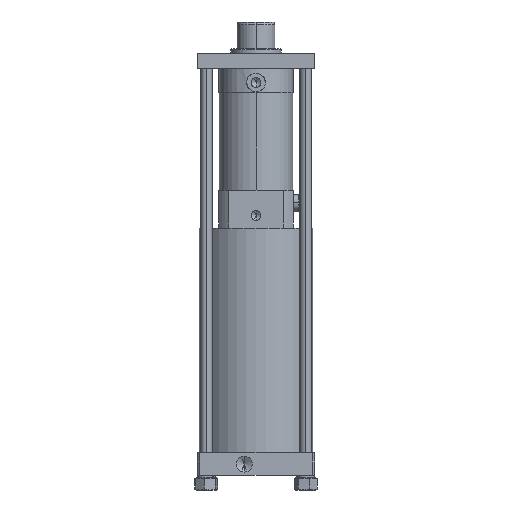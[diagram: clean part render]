
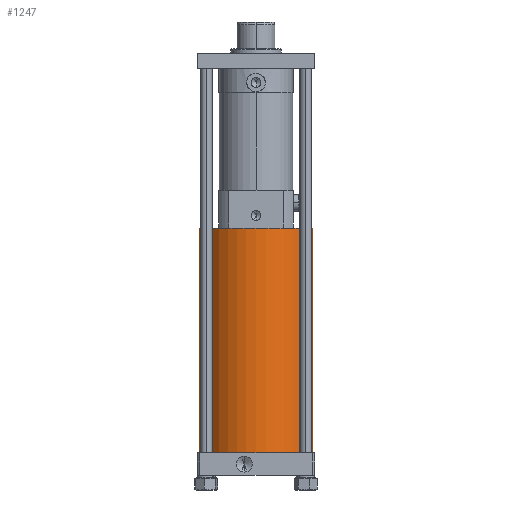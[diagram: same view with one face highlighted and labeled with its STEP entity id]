
A CAD part, left-side view. The second image highlights one B-rep face of the part: STEP entity #1247.
In plain terms, the highlighted cylindrical face has radius 67.5 mm (diameter 135 mm), a partial arc.
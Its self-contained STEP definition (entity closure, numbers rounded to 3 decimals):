
#206 = FACE_OUTER_BOUND ( 'NONE', #10266, .T. ) ;
#490 = ORIENTED_EDGE ( 'NONE', *, *, #1560, .T. ) ;
#518 = DIRECTION ( 'NONE',  ( 0., 0., -1. ) ) ;
#913 = CARTESIAN_POINT ( 'NONE',  ( 0., 0., -480. ) ) ;
#1247 = ADVANCED_FACE ( 'NONE', ( #206 ), #4319, .T. ) ;
#1560 = EDGE_CURVE ( 'NONE', #2862, #5045, #2150, .T. ) ;
#1799 = DIRECTION ( 'NONE',  ( 0., -1., 0. ) ) ;
#1813 = CARTESIAN_POINT ( 'NONE',  ( 0., -67.5, -480. ) ) ;
#1823 = CARTESIAN_POINT ( 'NONE',  ( 0., 67.5, -213. ) ) ;
#1864 = AXIS2_PLACEMENT_3D ( 'NONE', #913, #7036, #1799 ) ;
#2150 = LINE ( 'NONE', #1813, #7067 ) ;
#2457 = EDGE_CURVE ( 'NONE', #8457, #6255, #10993, .T. ) ;
#2492 = ORIENTED_EDGE ( 'NONE', *, *, #8575, .F. ) ;
#2862 = VERTEX_POINT ( 'NONE', #3202 ) ;
#3202 = CARTESIAN_POINT ( 'NONE',  ( 0., -67.5, -480. ) ) ;
#4218 = AXIS2_PLACEMENT_3D ( 'NONE', #5764, #518, #6657 ) ;
#4319 = CYLINDRICAL_SURFACE ( 'NONE', #8956, 67.5 ) ;
#4737 = CIRCLE ( 'NONE', #4218, 67.5 ) ;
#4897 = DIRECTION ( 'NONE',  ( 0., 0., 1. ) ) ;
#5036 = CARTESIAN_POINT ( 'NONE',  ( 0., 67.5, -480. ) ) ;
#5045 = VERTEX_POINT ( 'NONE', #9877 ) ;
#5764 = CARTESIAN_POINT ( 'NONE',  ( 0., 0., -213. ) ) ;
#6251 = DIRECTION ( 'NONE',  ( 0., 0., 1. ) ) ;
#6255 = VERTEX_POINT ( 'NONE', #1823 ) ;
#6546 = ORIENTED_EDGE ( 'NONE', *, *, #2457, .F. ) ;
#6623 = DIRECTION ( 'NONE',  ( 0., -1., 0. ) ) ;
#6640 = CIRCLE ( 'NONE', #1864, 67.5 ) ;
#6657 = DIRECTION ( 'NONE',  ( 0., -1., 0. ) ) ;
#7036 = DIRECTION ( 'NONE',  ( 0., 0., -1. ) ) ;
#7067 = VECTOR ( 'NONE', #6251, 1000. ) ;
#7100 = CARTESIAN_POINT ( 'NONE',  ( 0., 67.5, -480. ) ) ;
#7502 = CARTESIAN_POINT ( 'NONE',  ( 0., 0., -480. ) ) ;
#8410 = VECTOR ( 'NONE', #11300, 1000. ) ;
#8457 = VERTEX_POINT ( 'NONE', #7100 ) ;
#8575 = EDGE_CURVE ( 'NONE', #2862, #8457, #6640, .T. ) ;
#8956 = AXIS2_PLACEMENT_3D ( 'NONE', #7502, #4897, #6623 ) ;
#9877 = CARTESIAN_POINT ( 'NONE',  ( 0., -67.5, -213. ) ) ;
#10236 = ORIENTED_EDGE ( 'NONE', *, *, #10690, .T. ) ;
#10266 = EDGE_LOOP ( 'NONE', ( #6546, #2492, #490, #10236 ) ) ;
#10690 = EDGE_CURVE ( 'NONE', #5045, #6255, #4737, .T. ) ;
#10993 = LINE ( 'NONE', #5036, #8410 ) ;
#11300 = DIRECTION ( 'NONE',  ( 0., 0., 1. ) ) ;
